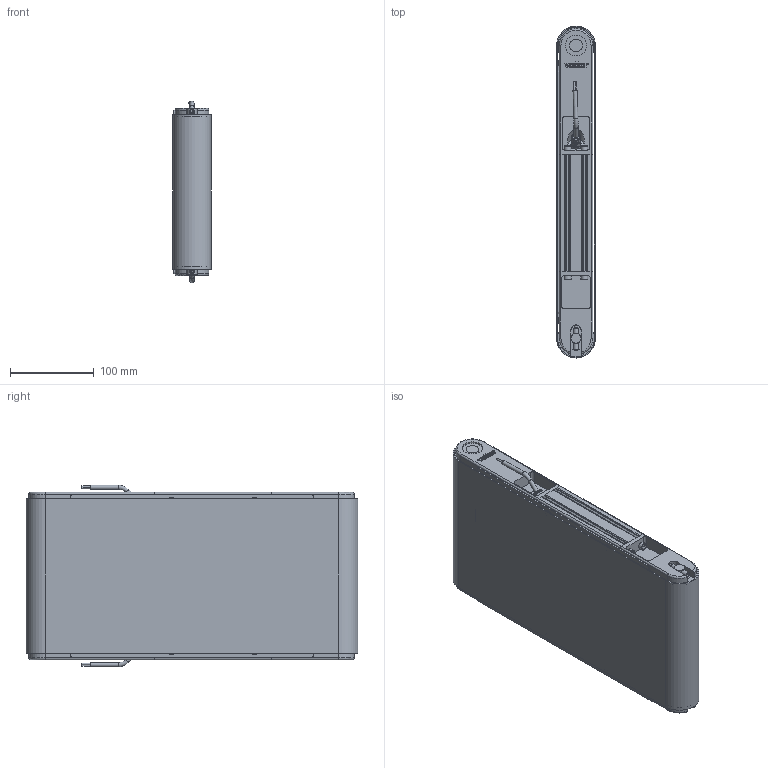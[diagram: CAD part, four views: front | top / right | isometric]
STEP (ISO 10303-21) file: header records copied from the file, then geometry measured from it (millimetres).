
FILE_DESCRIPTION(/* description */ (''),/* implementation_level */ '2;1');
FILE_NAME(/* name */ 'G:\DATEN\CAD\Förderband\Marketing\3D-Modelle (Standard)\FR-40-200\FR-40-200-350-K.stp',/* time_stamp */ '2019-05-08T09:17:20+02:00',/* author */ ('melanie.ochs'),/* organization */ (''),/* preprocessor_version */ 'ST-DEVELOPER v17',/* originating_system */ 'Autodesk Inventor 2019',/* authorisation */ '');
FILE_SCHEMA (('CONFIG_CONTROL_DESIGN'));
Length unit declared in the file: centimetre
Products named in the file (1): FR-40-200-350-K
Bounding box: 46.6 x 396.6 x 217.07 mm (x, y, z)
Volume: 2119743.2 mm3; surface area: 520531.7 mm2
Topology: 7 solids, 25 shells, 1124 faces, 3029 edges, 2003 vertices
Faces by surface type: plane 559, cylinder 328, bspline 124, cone 75, torus 38
Full cylindrical faces by diameter (mm): 2 x4, 4 x6, 4.3 x4, 4.917 x1, 5 x14, 5.5 x8, 6 x4, 6.647 x2, 8 x4, 8.3 x4, 8.5 x8, 8.773 x2, 10 x2, 11 x2, 12 x3, 15 x2, 20 x4, 25 x2, 28 x4
Entity records: 38076 total; most frequent: CARTESIAN_POINT 9220, ORIENTED_EDGE 6034, DIRECTION 5475, EDGE_CURVE 3017, VERTEX_POINT 2003, AXIS2_PLACEMENT_3D 1935, LINE 1605, VECTOR 1605
